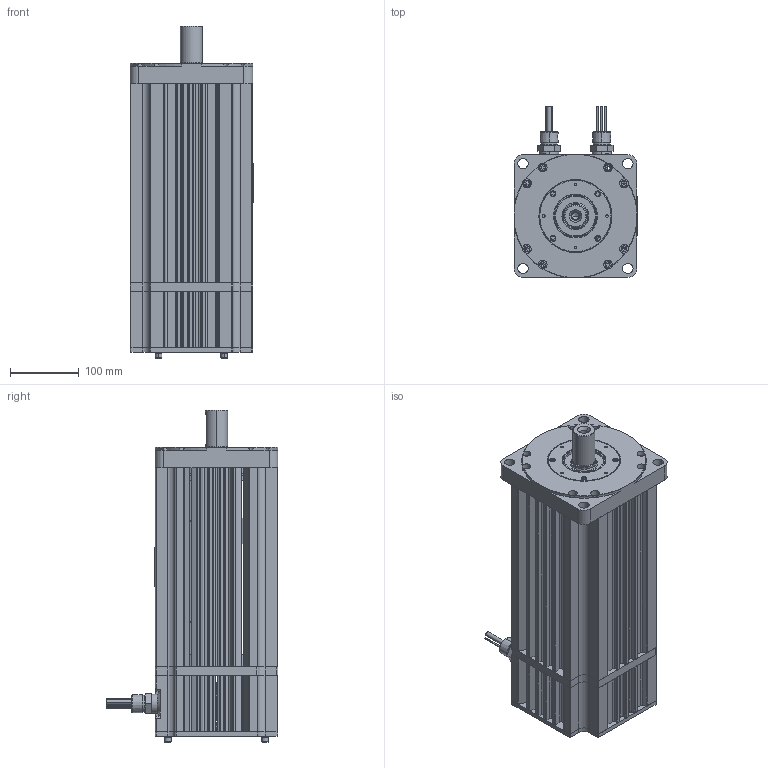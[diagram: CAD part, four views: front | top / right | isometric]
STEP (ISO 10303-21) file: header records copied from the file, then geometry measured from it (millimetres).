
FILE_DESCRIPTION (( 'STEP AP203' ), '1' );
FILE_NAME ('M474-CNS0-AG08.STEP', '2011-09-01T21:47:55', ( '' ), ( '' ), 'SwSTEP 2.0', 'SolidWorks 2011', '' );
FILE_SCHEMA (( 'CONFIG_CONTROL_DESIGN' ));
Products named in the file (1): M474-CNS0-AG08
Bounding box: 179.48 x 248.92 x 481.3 mm (x, y, z)
Surface area: 697661 mm2 (no closed solid volume)
Topology: 0 solids, 188 shells, 1672 faces, 5745 edges, 4214 vertices
Faces by surface type: plane 770, cylinder 624, cone 129, bspline 84, torus 63, sphere 2
Entity records: 70064 total; most frequent: CARTESIAN_POINT 21356, DIRECTION 10089, ORIENTED_EDGE 8782, EDGE_CURVE 5717, VERTEX_POINT 4214, VECTOR 3435, LINE 3435, AXIS2_PLACEMENT_3D 3327
